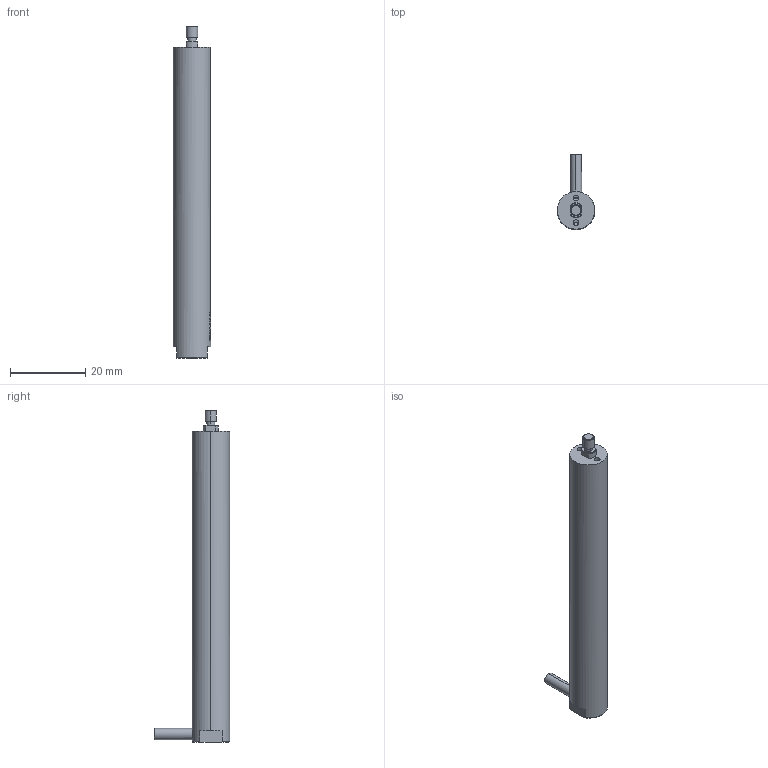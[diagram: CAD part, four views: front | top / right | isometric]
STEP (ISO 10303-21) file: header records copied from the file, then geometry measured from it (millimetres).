
FILE_DESCRIPTION (( 'STEP AP203' ), '1' );
FILE_NAME ('80VS10俋蹟恇.STEP', '2024-12-10T06:32:39', ( 'daohangxitong.com' ), ( 'daohangxitong.com' ), 'SwSTEP 2.0', 'SolidWorks 2016', '' );
FILE_SCHEMA (( 'CONFIG_CONTROL_DESIGN' ));
Length unit declared in the file: millimetre
Products named in the file (1): 80VS10俋蹟恇
Bounding box: 10 x 20 x 88.2 mm (x, y, z)
Volume: 6536.9 mm3; surface area: 2968.2 mm2
Topology: 1 solids, 1 shells, 939 faces, 2682 edges, 1780 vertices
Faces by surface type: bspline 814, cylinder 59, plane 52, cone 14
Entity records: 51109 total; most frequent: CARTESIAN_POINT 33853, ORIENTED_EDGE 5352, EDGE_CURVE 2676, B_SPLINE_CURVE_WITH_KNOTS 2497, VERTEX_POINT 1780, EDGE_LOOP 980, FACE_OUTER_BOUND 939, ADVANCED_FACE 939
